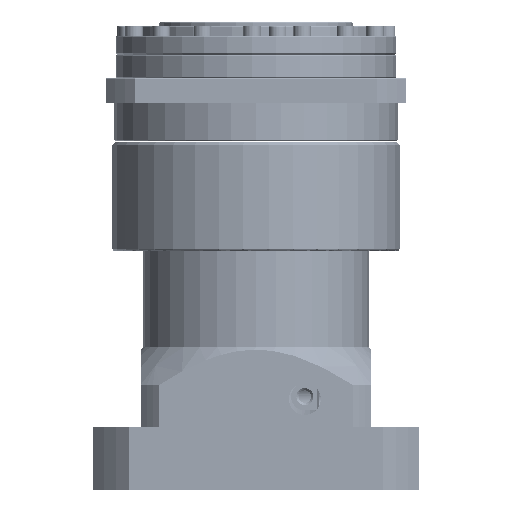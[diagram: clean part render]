
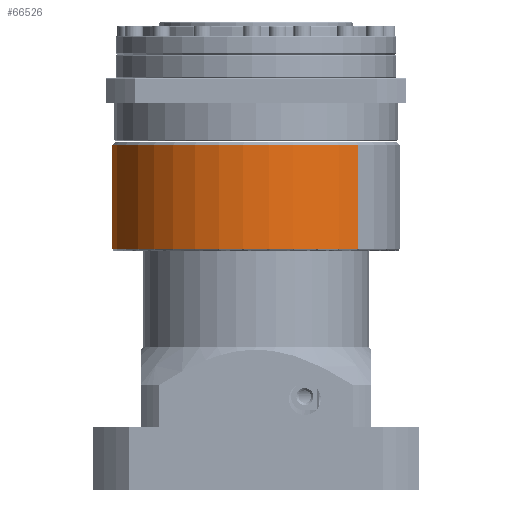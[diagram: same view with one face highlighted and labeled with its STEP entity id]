
A CAD part, front view. The second image highlights one B-rep face of the part: STEP entity #66526.
In plain terms, the highlighted cylindrical face has radius 57.5 mm (diameter 115 mm), a partial arc.
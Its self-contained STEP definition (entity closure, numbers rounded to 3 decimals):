
#134 = CARTESIAN_POINT ( 'NONE',  ( -40.659, 40.659, -1.5 ) ) ;
#2048 = CARTESIAN_POINT ( 'NONE',  ( 40.659, -40.659, -43.25 ) ) ;
#2074 = CARTESIAN_POINT ( 'NONE',  ( -40.659, 40.659, -43.25 ) ) ;
#2077 = EDGE_CURVE ( 'NONE', #51397, #51417, #56977, .T. ) ;
#2087 = EDGE_LOOP ( 'NONE', ( #66544, #2794, #66536, #66621 ) ) ;
#2794 = ORIENTED_EDGE ( 'NONE', *, *, #2077, .T. ) ;
#11502 = EDGE_CURVE ( 'NONE', #51417, #48289, #52033, .T. ) ;
#14241 = DIRECTION ( 'NONE',  ( 0., 0., 1. ) ) ;
#14242 = VECTOR ( 'NONE', #14241, 1000. ) ;
#14244 = CARTESIAN_POINT ( 'NONE',  ( -40.659, 40.659, -0.45 ) ) ;
#14245 = LINE ( 'NONE', #14244, #14242 ) ;
#48289 = VERTEX_POINT ( 'NONE', #98064 ) ;
#50496 = VERTEX_POINT ( 'NONE', #134 ) ;
#51397 = VERTEX_POINT ( 'NONE', #2074 ) ;
#51417 = VERTEX_POINT ( 'NONE', #2048 ) ;
#52002 = DIRECTION ( 'NONE',  ( 0., 0., 1. ) ) ;
#52003 = VECTOR ( 'NONE', #52002, 1000. ) ;
#52031 = CARTESIAN_POINT ( 'NONE',  ( 40.659, -40.659, -0.45 ) ) ;
#52033 = LINE ( 'NONE', #52031, #52003 ) ;
#56973 = DIRECTION ( 'NONE',  ( 0.707, -0.707, 0. ) ) ;
#56974 = DIRECTION ( 'NONE',  ( 0., 0., 1. ) ) ;
#56975 = CARTESIAN_POINT ( 'NONE',  ( 0., 0., -43.25 ) ) ;
#56976 = AXIS2_PLACEMENT_3D ( 'NONE', #56975, #56974, #56973 ) ;
#56977 = CIRCLE ( 'NONE', #56976, 57.5 ) ;
#66526 = ADVANCED_FACE ( 'NONE', ( #68860 ), #68855, .T. ) ;
#66528 = EDGE_CURVE ( 'NONE', #48289, #50496, #68895, .T. ) ;
#66536 = ORIENTED_EDGE ( 'NONE', *, *, #11502, .T. ) ;
#66544 = ORIENTED_EDGE ( 'NONE', *, *, #99848, .F. ) ;
#66621 = ORIENTED_EDGE ( 'NONE', *, *, #66528, .T. ) ;
#68855 = CYLINDRICAL_SURFACE ( 'NONE', #68870, 57.5 ) ;
#68860 = FACE_OUTER_BOUND ( 'NONE', #2087, .T. ) ;
#68870 = AXIS2_PLACEMENT_3D ( 'NONE', #68900, #68899, #68898 ) ;
#68873 = AXIS2_PLACEMENT_3D ( 'NONE', #68894, #68893, #68892 ) ;
#68892 = DIRECTION ( 'NONE',  ( 0.707, -0.707, 0. ) ) ;
#68893 = DIRECTION ( 'NONE',  ( 0., 0., -1. ) ) ;
#68894 = CARTESIAN_POINT ( 'NONE',  ( 0., 0., -1.5 ) ) ;
#68895 = CIRCLE ( 'NONE', #68873, 57.5 ) ;
#68898 = DIRECTION ( 'NONE',  ( 0.707, -0.707, 0. ) ) ;
#68899 = DIRECTION ( 'NONE',  ( 0., 0., 1. ) ) ;
#68900 = CARTESIAN_POINT ( 'NONE',  ( 0., 0., -0.45 ) ) ;
#98064 = CARTESIAN_POINT ( 'NONE',  ( 40.659, -40.659, -1.5 ) ) ;
#99848 = EDGE_CURVE ( 'NONE', #51397, #50496, #14245, .T. ) ;
